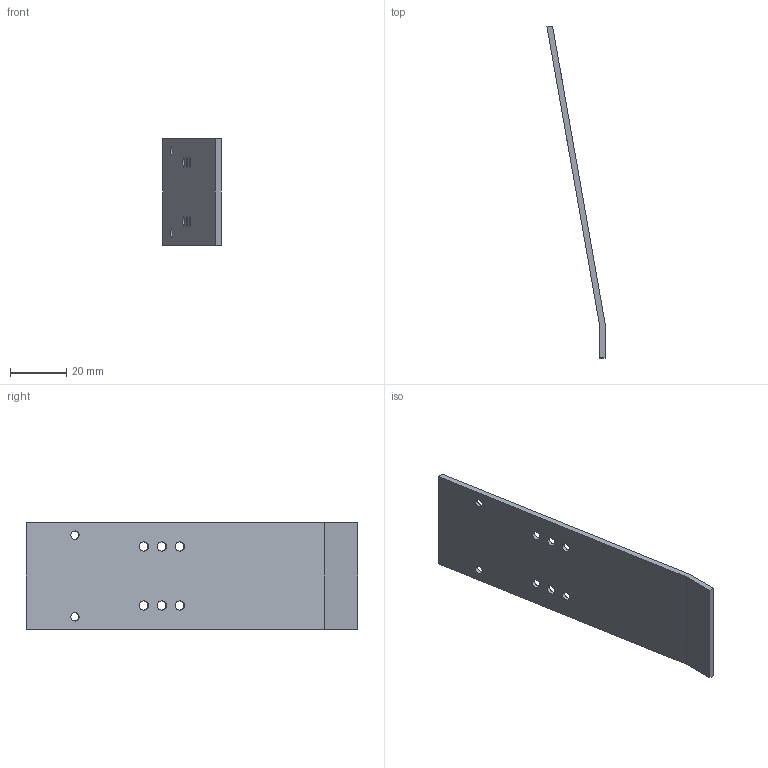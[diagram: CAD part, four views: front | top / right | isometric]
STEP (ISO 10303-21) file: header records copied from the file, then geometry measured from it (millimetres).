
FILE_DESCRIPTION (( 'STEP AP214' ), '1' );
FILE_NAME ('狟絮啣.STEP', '2024-11-14T11:32:29', ( '' ), ( '' ), 'SwSTEP 2.0', 'SolidWorks 2021', '' );
FILE_SCHEMA (( 'AUTOMOTIVE_DESIGN' ));
Length unit declared in the file: millimetre
Products named in the file (1): 狟絮啣
Bounding box: 20.68 x 117.93 x 38 mm (x, y, z)
Volume: 8843.2 mm3; surface area: 9798.1 mm2
Topology: 1 solids, 1 shells, 48 faces, 114 edges, 76 vertices
Faces by surface type: cylinder 32, plane 16
Entity records: 1488 total; most frequent: DIRECTION 276, CARTESIAN_POINT 239, ORIENTED_EDGE 228, EDGE_CURVE 114, AXIS2_PLACEMENT_3D 113, VERTEX_POINT 76, EDGE_LOOP 72, CIRCLE 64
